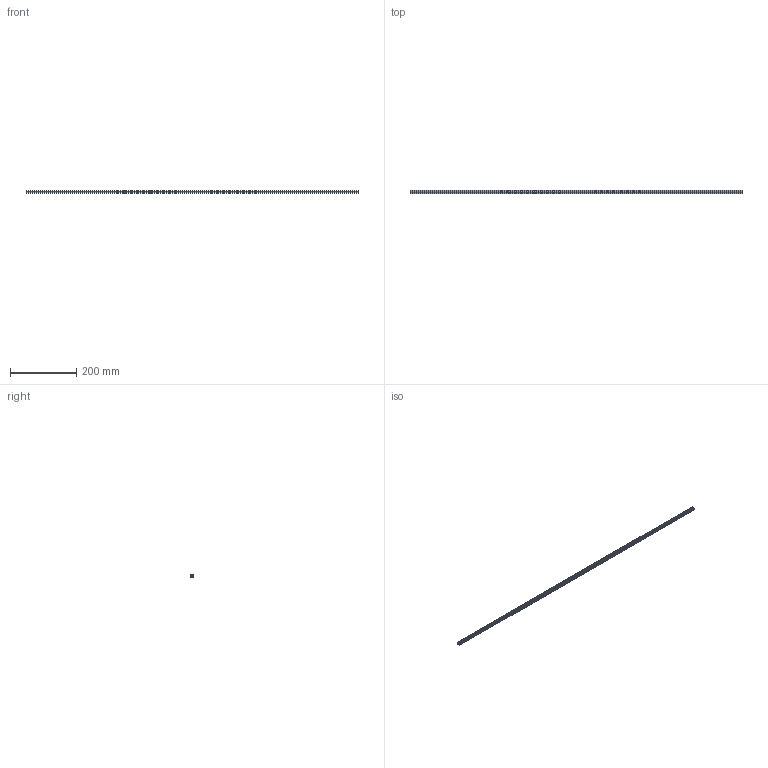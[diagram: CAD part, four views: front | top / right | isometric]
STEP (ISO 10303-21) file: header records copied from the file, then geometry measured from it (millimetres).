
FILE_DESCRIPTION (( 'STEP AP214' ), '1' );
FILE_NAME ('J3MPEY.step', '2017-05-24T07:39:40', ( 'admin' ), ( '' ), 'SwSTEP 2.0', 'SolidWorks 2014', '' );
FILE_SCHEMA (( 'AUTOMOTIVE_DESIGN' ));
Length unit declared in the file: millimetre
Products named in the file (1): J3MPEY
Bounding box: 1000 x 10.35 x 7.23 mm (x, y, z)
Volume: 27909.9 mm3; surface area: 54956.1 mm2
Topology: 1 solids, 1 shells, 49 faces, 141 edges, 94 vertices
Faces by surface type: cylinder 25, plane 24
Entity records: 1659 total; most frequent: DIRECTION 291, CARTESIAN_POINT 285, ORIENTED_EDGE 282, EDGE_CURVE 141, AXIS2_PLACEMENT_3D 100, VERTEX_POINT 94, VECTOR 91, LINE 91
